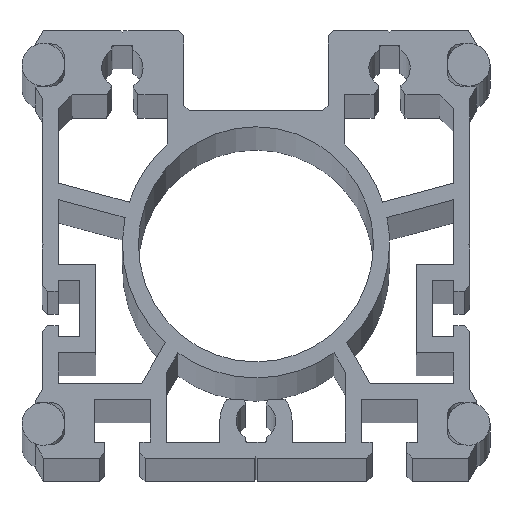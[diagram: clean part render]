
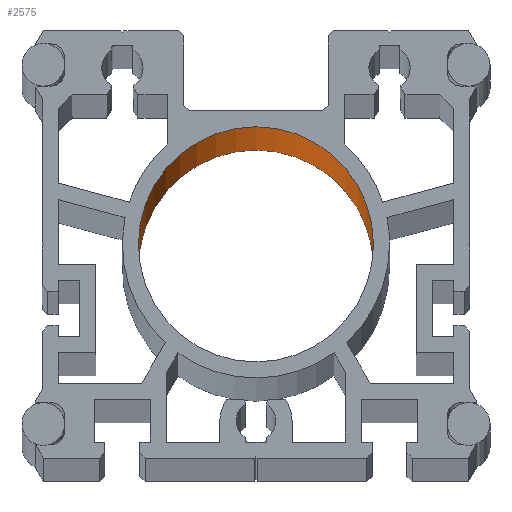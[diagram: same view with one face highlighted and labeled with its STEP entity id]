
A CAD part, top view. The second image highlights one B-rep face of the part: STEP entity #2575.
In plain terms, the highlighted cylindrical face has radius 22 mm (diameter 44 mm), a partial arc.
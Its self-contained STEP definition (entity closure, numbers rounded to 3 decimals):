
#1368 = DIRECTION ( 'NONE',  ( 1., 0., 0. ) ) ;
#1387 = DIRECTION ( 'NONE',  ( 0., 0., 1. ) ) ;
#1388 = CARTESIAN_POINT ( 'NONE',  ( 0., 40., -1249. ) ) ;
#1389 = AXIS2_PLACEMENT_3D ( 'NONE', #1388, #1387, #1368 ) ;
#1390 = CIRCLE ( 'NONE', #1389, 22. ) ;
#2502 = EDGE_LOOP ( 'NONE', ( #2570, #2572, #2571, #2569 ) ) ;
#2569 = ORIENTED_EDGE ( 'NONE', *, *, #2573, .T. ) ;
#2570 = ORIENTED_EDGE ( 'NONE', *, *, #3318, .F. ) ;
#2571 = ORIENTED_EDGE ( 'NONE', *, *, #3306, .T. ) ;
#2572 = ORIENTED_EDGE ( 'NONE', *, *, #5122, .F. ) ;
#2573 = EDGE_CURVE ( 'NONE', #3322, #3319, #5954, .T. ) ;
#2575 = ADVANCED_FACE ( 'NONE', ( #5949 ), #5948, .F. ) ;
#3306 = EDGE_CURVE ( 'NONE', #3316, #3322, #7058, .T. ) ;
#3312 = VERTEX_POINT ( 'NONE', #7009 ) ;
#3316 = VERTEX_POINT ( 'NONE', #7096 ) ;
#3318 = EDGE_CURVE ( 'NONE', #3312, #3319, #7095, .T. ) ;
#3319 = VERTEX_POINT ( 'NONE', #7091 ) ;
#3322 = VERTEX_POINT ( 'NONE', #7084 ) ;
#5122 = EDGE_CURVE ( 'NONE', #3316, #3312, #1390, .T. ) ;
#5943 = DIRECTION ( 'NONE',  ( 1., 0., 0. ) ) ;
#5944 = DIRECTION ( 'NONE',  ( 0., 0., 1. ) ) ;
#5945 = CARTESIAN_POINT ( 'NONE',  ( 0., 40., -1249. ) ) ;
#5946 = AXIS2_PLACEMENT_3D ( 'NONE', #5945, #5944, #5943 ) ;
#5948 = CYLINDRICAL_SURFACE ( 'NONE', #5946, 22. ) ;
#5949 = FACE_OUTER_BOUND ( 'NONE', #2502, .T. ) ;
#5950 = DIRECTION ( 'NONE',  ( 1., 0., 0. ) ) ;
#5951 = DIRECTION ( 'NONE',  ( 0., 0., 1. ) ) ;
#5952 = CARTESIAN_POINT ( 'NONE',  ( 0., 40., 1249. ) ) ;
#5953 = AXIS2_PLACEMENT_3D ( 'NONE', #5952, #5951, #5950 ) ;
#5954 = CIRCLE ( 'NONE', #5953, 22. ) ;
#7009 = CARTESIAN_POINT ( 'NONE',  ( -22., 40., -1249. ) ) ;
#7055 = DIRECTION ( 'NONE',  ( 0., 0., 1. ) ) ;
#7056 = VECTOR ( 'NONE', #7055, 1000. ) ;
#7057 = CARTESIAN_POINT ( 'NONE',  ( 22., 40., -1249. ) ) ;
#7058 = LINE ( 'NONE', #7057, #7056 ) ;
#7084 = CARTESIAN_POINT ( 'NONE',  ( 22., 40., 1249. ) ) ;
#7091 = CARTESIAN_POINT ( 'NONE',  ( -22., 40., 1249. ) ) ;
#7092 = DIRECTION ( 'NONE',  ( 0., 0., 1. ) ) ;
#7093 = VECTOR ( 'NONE', #7092, 1000. ) ;
#7094 = CARTESIAN_POINT ( 'NONE',  ( -22., 40., -1249. ) ) ;
#7095 = LINE ( 'NONE', #7094, #7093 ) ;
#7096 = CARTESIAN_POINT ( 'NONE',  ( 22., 40., -1249. ) ) ;
